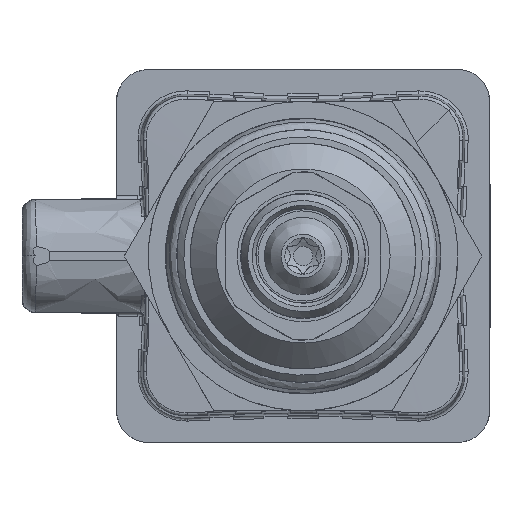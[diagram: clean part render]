
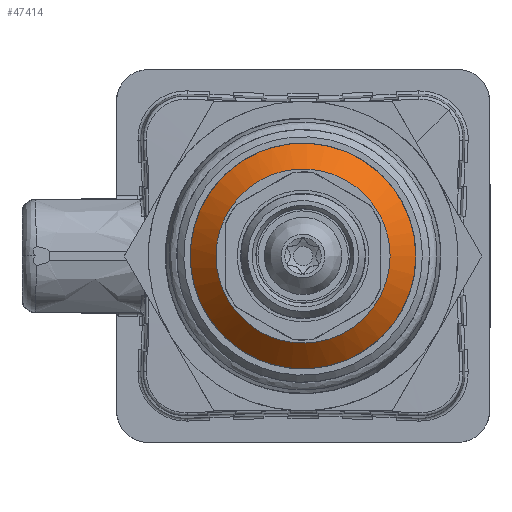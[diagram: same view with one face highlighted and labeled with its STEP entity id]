
A CAD part, front view. The second image highlights one B-rep face of the part: STEP entity #47414.
In plain terms, the highlighted free-form (B-spline) face has degree [2, 1] with [7, 2] control points.
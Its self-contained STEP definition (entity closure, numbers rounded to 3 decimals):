
#47336=CARTESIAN_POINT('V1479',(8.75,
   -27.3,0.0));
#47337=VERTEX_POINT('V1479',#47336);
#47343=CARTESIAN_POINT('E2358',(8.75,
   -27.3,0.0));
#47344=CARTESIAN_POINT('E2358',(8.75,
   -27.3,-15.155));
#47345=CARTESIAN_POINT('E2358',(-4.375,
   -27.3,-7.578));
#47346=CARTESIAN_POINT('E2358',(-17.5,
   -27.3,0.));
#47347=CARTESIAN_POINT('E2358',(-4.375,
   -27.3,7.578));
#47348=CARTESIAN_POINT('E2358',(8.75,
   -27.3,15.155));
#47349=CARTESIAN_POINT('E2358',(8.75,
   -27.3,0.0));
#47357=(BOUNDED_CURVE()B_SPLINE_CURVE(2,(#47343,#47344,#47345,
   #47346,#47347,#47348,#47349),.CIRCULAR_ARC.,.T.,.U.)
   B_SPLINE_CURVE_WITH_KNOTS((3,2,2,3),(0.0,60.622,
   121.244,181.865),.UNSPECIFIED.)CURVE()
   GEOMETRIC_REPRESENTATION_ITEM()RATIONAL_B_SPLINE_CURVE((1.0,
   0.5,1.0,0.5,1.0,0.5,1.0)
   )REPRESENTATION_ITEM('E2358'));
#47358=EDGE_CURVE('E2358',#47337,#47337,#47357,.T.);
#47364=CARTESIAN_POINT('F890',(6.75,-29.3,
   0.0));
#47365=CARTESIAN_POINT('F890',(6.75,-29.3,
   -11.691));
#47366=CARTESIAN_POINT('F890',(-3.375,
   -29.3,-5.846));
#47367=CARTESIAN_POINT('F890',(-13.5,
   -29.3,0.));
#47368=CARTESIAN_POINT('F890',(-3.375,
   -29.3,5.846));
#47369=CARTESIAN_POINT('F890',(6.75,-29.3,
   11.691));
#47370=CARTESIAN_POINT('F890',(6.75,-29.3,
   0.0));
#47371=CARTESIAN_POINT('F890',(8.75,-27.3,
   0.0));
#47372=CARTESIAN_POINT('F890',(8.75,-27.3,
   -15.155));
#47373=CARTESIAN_POINT('F890',(-4.375,
   -27.3,-7.578));
#47374=CARTESIAN_POINT('F890',(-17.5,
   -27.3,0.));
#47375=CARTESIAN_POINT('F890',(-4.375,
   -27.3,7.578));
#47376=CARTESIAN_POINT('F890',(8.75,-27.3,
   15.155));
#47377=CARTESIAN_POINT('F890',(8.75,-27.3,
   0.0));
#47385=(BOUNDED_SURFACE()B_SPLINE_SURFACE(2,1,((#47364,#47371),(
   #47365,#47372),(#47366,#47373),(#47367,#47374),(#47368,
   #47375),(#47369,#47376),(#47370,#47377)),.CONICAL_SURF.,.T.,
   .F.,.U.)B_SPLINE_SURFACE_WITH_KNOTS((3,2,2,3),(2,2),(0.0,
   9.492,18.984,28.475),(0.0,
   1.0),.UNSPECIFIED.)GEOMETRIC_REPRESENTATION_ITEM()
   RATIONAL_B_SPLINE_SURFACE(((1.0,1.0),(0.5,
   0.5),(1.0,1.0),(0.5,
   0.5),(1.0,1.0),(0.5,
   0.5),(1.0,1.0)))REPRESENTATION_ITEM('F890')
   SURFACE());
#47386=CARTESIAN_POINT('V1480',(6.75,
   -29.3,0.0));
#47387=VERTEX_POINT('V1480',#47386);
#47388=CARTESIAN_POINT('E2359',(8.75,
   -27.3,0.0));
#47389=CARTESIAN_POINT('E2359',(6.75,
   -29.3,0.0));
#47390=QUASI_UNIFORM_CURVE('E2359',1,(#47388,#47389),.POLYLINE_FORM.,
   .F.,.U.);
#47391=EDGE_CURVE('E2359',#47337,#47387,#47390,.T.);
#47392=ORIENTED_EDGE('E2359',*,*,#47391,.T.);
#47393=CARTESIAN_POINT('E2360',(6.75,
   -29.3,0.0));
#47394=CARTESIAN_POINT('E2360',(6.75,
   -29.3,-11.691));
#47395=CARTESIAN_POINT('E2360',(-3.375,
   -29.3,-5.846));
#47396=CARTESIAN_POINT('E2360',(-13.5,
   -29.3,0.));
#47397=CARTESIAN_POINT('E2360',(-3.375,
   -29.3,5.846));
#47398=CARTESIAN_POINT('E2360',(6.75,
   -29.3,11.691));
#47399=CARTESIAN_POINT('E2360',(6.75,
   -29.3,0.0));
#47407=(BOUNDED_CURVE()B_SPLINE_CURVE(2,(#47393,#47394,#47395,
   #47396,#47397,#47398,#47399),.CIRCULAR_ARC.,.T.,.U.)
   B_SPLINE_CURVE_WITH_KNOTS((3,2,2,3),(0.0,9.492,
   18.984,28.475),.UNSPECIFIED.)CURVE()
   GEOMETRIC_REPRESENTATION_ITEM()RATIONAL_B_SPLINE_CURVE((1.0,
   0.5,1.0,0.5,1.0,0.5,1.0)
   )REPRESENTATION_ITEM('E2360'));
#47408=EDGE_CURVE('E2360',#47387,#47387,#47407,.T.);
#47409=ORIENTED_EDGE('E2360',*,*,#47408,.T.);
#47410=ORIENTED_EDGE('E2359',*,*,#47391,.F.);
#47411=ORIENTED_EDGE('E2358',*,*,#47358,.F.);
#47412=EDGE_LOOP('F890',(#47392,#47409,#47410,#47411));
#47413=FACE_OUTER_BOUND('F890',#47412,.T.);
#47414=ADVANCED_FACE('F890',(#47413),#47385,.T.);
